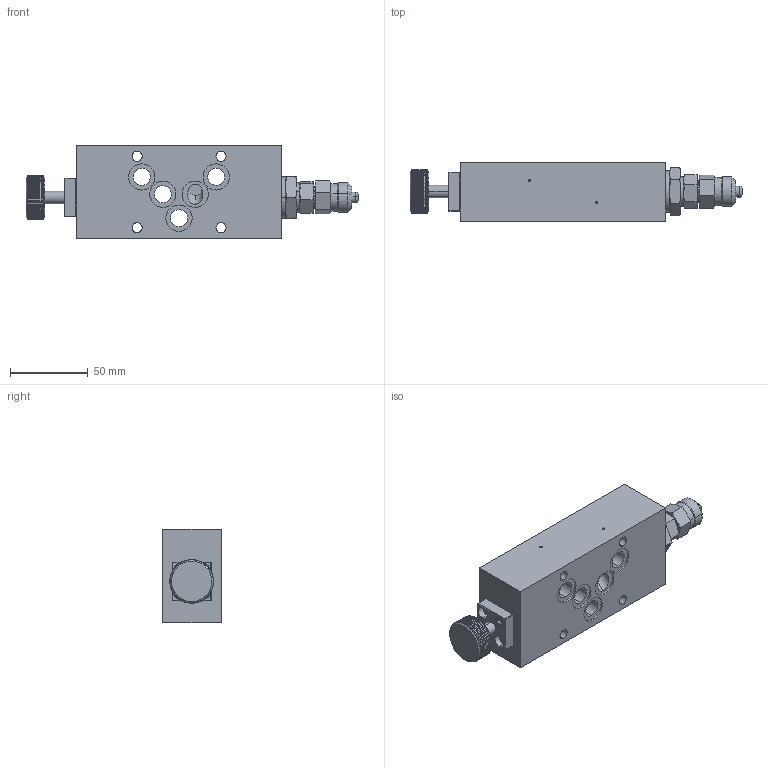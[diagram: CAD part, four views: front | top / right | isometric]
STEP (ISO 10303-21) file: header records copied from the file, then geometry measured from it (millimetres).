
FILE_DESCRIPTION (( 'STEP AP214' ), '1' );
FILE_NAME ('AAHA10_M.STEP', '2017-05-08T12:26:16', ( '' ), ( '' ), 'SwSTEP 2.0', 'SolidWorks 2016', '' );
FILE_SCHEMA (( 'AUTOMOTIVE_DESIGN' ));
Length unit declared in the file: millimetre
Products named in the file (1): AAHA10_M
Bounding box: 213.7 x 37.5 x 60 mm (x, y, z)
Volume: 302687.9 mm3; surface area: 55836 mm2
Topology: 9 solids, 11 shells, 652 faces, 1663 edges, 1054 vertices
Faces by surface type: cylinder 392, plane 158, cone 84, torus 14, sphere 4
Entity records: 28991 total; most frequent: CARTESIAN_POINT 6318, ORIENTED_EDGE 3294, DIRECTION 3123, EDGE_CURVE 1647, AXIS2_PLACEMENT_3D 1235, VERTEX_POINT 1054, EDGE_LOOP 725, UNCERTAINTY_MEASURE_WITH_UNIT 659
